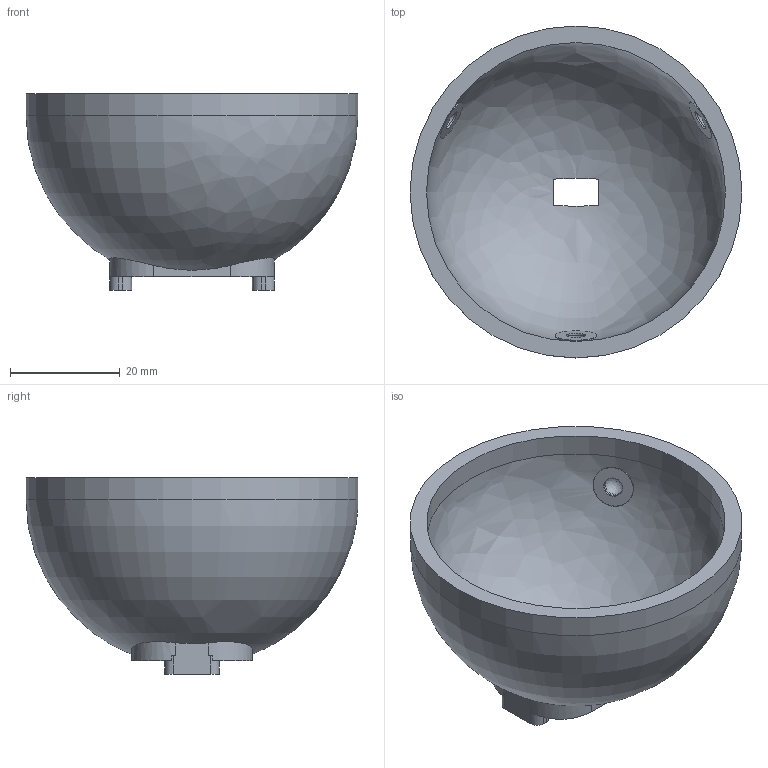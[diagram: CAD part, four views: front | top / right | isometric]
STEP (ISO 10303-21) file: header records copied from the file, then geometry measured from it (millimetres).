
FILE_DESCRIPTION(('Open CASCADE Model'),'2;1');
FILE_NAME('Open CASCADE Shape Model','2026-06-04T07:56:42',('Author'),( 'Open CASCADE'),'Open CASCADE STEP processor 7.6','Open CASCADE 7.6' ,'Unknown');
FILE_SCHEMA(('AP242_MANAGED_MODEL_BASED_3D_ENGINEERING_MIM_LF. {1 0 10303 442 1 1 4 }'));
Length unit declared in the file: millimetre
Products named in the file (1): Open CASCADE STEP translator 7.6 1
Bounding box: 60.5 x 60.5 x 35.85 mm (x, y, z)
Volume: 17973 mm3; surface area: 12882.2 mm2
Topology: 1 solids, 1 shells, 80 faces, 209 edges, 137 vertices
Faces by surface type: plane 35, cylinder 31, revolution 8, bspline 4, cone 2
Full cylindrical faces by diameter (mm): 2.05 x2, 3.57 x3, 3.572 x3, 7.57 x3, 54.5 x1, 60.5 x1
Entity records: 8718 total; most frequent: CARTESIAN_POINT 4600, DIRECTION 765, ORIENTED_EDGE 408, PCURVE 408, DEFINITIONAL_REPRESENTATION 408, LINE 403, VECTOR 403, EDGE_CURVE 204
